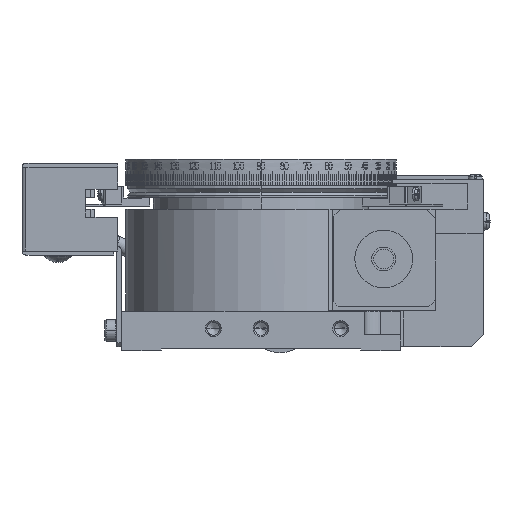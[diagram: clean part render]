
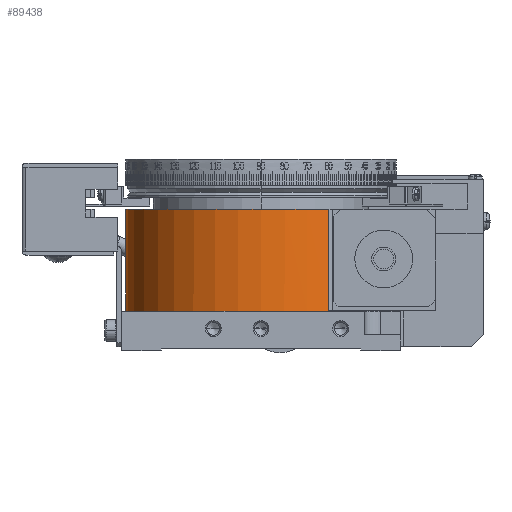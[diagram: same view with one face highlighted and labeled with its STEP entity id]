
A CAD part, left-side view. The second image highlights one B-rep face of the part: STEP entity #89438.
In plain terms, the highlighted cylindrical face has radius 33.9 mm (diameter 67.8 mm), a partial arc.
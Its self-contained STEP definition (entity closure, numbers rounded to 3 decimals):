
#2814 = VECTOR ( 'NONE', #96393, 1000. ) ;
#4744 = DIRECTION ( 'NONE',  ( 0., 0., 1. ) ) ;
#5719 = DIRECTION ( 'NONE',  ( 0., 1., 0. ) ) ;
#7009 = CARTESIAN_POINT ( 'NONE',  ( 46.624, 166.319, 35.5 ) ) ;
#8553 = EDGE_CURVE ( 'NONE', #71659, #140178, #52378, .T. ) ;
#10119 = CYLINDRICAL_SURFACE ( 'NONE', #121791, 33.9 ) ;
#11621 = VERTEX_POINT ( 'NONE', #144276 ) ;
#11728 = DIRECTION ( 'NONE',  ( 0., 0., 1. ) ) ;
#22144 = ORIENTED_EDGE ( 'NONE', *, *, #116921, .T. ) ;
#22941 = ORIENTED_EDGE ( 'NONE', *, *, #101006, .F. ) ;
#24110 = ORIENTED_EDGE ( 'NONE', *, *, #8553, .F. ) ;
#27649 = CIRCLE ( 'NONE', #105862, 33.9 ) ;
#28297 = LINE ( 'NONE', #49423, #108843 ) ;
#28654 = VERTEX_POINT ( 'NONE', #58440 ) ;
#29485 = DIRECTION ( 'NONE',  ( 0., 0., -1. ) ) ;
#29538 = DIRECTION ( 'NONE',  ( 0., -1., 0. ) ) ;
#31616 = EDGE_CURVE ( 'NONE', #57551, #11621, #74518, .T. ) ;
#36069 = VERTEX_POINT ( 'NONE', #97546 ) ;
#37732 = VECTOR ( 'NONE', #11728, 1000. ) ;
#40336 = DIRECTION ( 'NONE',  ( 0., 0., -1. ) ) ;
#41202 = DIRECTION ( 'NONE',  ( 0., 1., 0. ) ) ;
#41273 = DIRECTION ( 'NONE',  ( 0., 0., 1. ) ) ;
#41407 = CARTESIAN_POINT ( 'NONE',  ( 46.624, 132.419, 35.5 ) ) ;
#49069 = EDGE_CURVE ( 'NONE', #140178, #36069, #28297, .T. ) ;
#49423 = CARTESIAN_POINT ( 'NONE',  ( 17.294, 115.419, 35.501 ) ) ;
#52223 = EDGE_CURVE ( 'NONE', #56320, #36069, #27649, .T. ) ;
#52378 = CIRCLE ( 'NONE', #98381, 33.9 ) ;
#56320 = VERTEX_POINT ( 'NONE', #100944 ) ;
#57551 = VERTEX_POINT ( 'NONE', #136248 ) ;
#58440 = CARTESIAN_POINT ( 'NONE',  ( 46.624, 166.319, 9.9 ) ) ;
#67490 = LINE ( 'NONE', #145217, #37732 ) ;
#71659 = VERTEX_POINT ( 'NONE', #7009 ) ;
#74518 = LINE ( 'NONE', #85192, #2814 ) ;
#76099 = DIRECTION ( 'NONE',  ( 0., 1., 0. ) ) ;
#78004 = ORIENTED_EDGE ( 'NONE', *, *, #52223, .T. ) ;
#79430 = EDGE_LOOP ( 'NONE', ( #92837, #123801, #22144, #78004, #137537, #24110, #22941 ) ) ;
#81955 = FACE_OUTER_BOUND ( 'NONE', #79430, .T. ) ;
#84870 = CARTESIAN_POINT ( 'NONE',  ( 46.624, 132.419, 9.9 ) ) ;
#85192 = CARTESIAN_POINT ( 'NONE',  ( 46.624, 98.519, 4.164 ) ) ;
#89438 = ADVANCED_FACE ( 'NONE', ( #81955 ), #10119, .T. ) ;
#92837 = ORIENTED_EDGE ( 'NONE', *, *, #118346, .T. ) ;
#93749 = AXIS2_PLACEMENT_3D ( 'NONE', #84870, #41273, #29538 ) ;
#96083 = DIRECTION ( 'NONE',  ( 0., 1., 0. ) ) ;
#96393 = DIRECTION ( 'NONE',  ( 0., 0., 1. ) ) ;
#96974 = CARTESIAN_POINT ( 'NONE',  ( 46.624, 132.419, 10. ) ) ;
#97546 = CARTESIAN_POINT ( 'NONE',  ( 17.294, 115.419, 10. ) ) ;
#98381 = AXIS2_PLACEMENT_3D ( 'NONE', #41407, #124388, #76099 ) ;
#100944 = CARTESIAN_POINT ( 'NONE',  ( 28.624, 103.693, 10. ) ) ;
#101006 = EDGE_CURVE ( 'NONE', #28654, #71659, #67490, .T. ) ;
#105862 = AXIS2_PLACEMENT_3D ( 'NONE', #96974, #29485, #41202 ) ;
#105898 = CIRCLE ( 'NONE', #93749, 33.9 ) ;
#106424 = CARTESIAN_POINT ( 'NONE',  ( 46.624, 132.419, 10. ) ) ;
#108843 = VECTOR ( 'NONE', #116439, 1000. ) ;
#115741 = CARTESIAN_POINT ( 'NONE',  ( 46.624, 132.419, 4.164 ) ) ;
#116439 = DIRECTION ( 'NONE',  ( 0., 0., -1. ) ) ;
#116921 = EDGE_CURVE ( 'NONE', #11621, #56320, #119916, .T. ) ;
#118346 = EDGE_CURVE ( 'NONE', #28654, #57551, #105898, .T. ) ;
#119916 = CIRCLE ( 'NONE', #143134, 33.9 ) ;
#121791 = AXIS2_PLACEMENT_3D ( 'NONE', #115741, #4744, #5719 ) ;
#123801 = ORIENTED_EDGE ( 'NONE', *, *, #31616, .T. ) ;
#124388 = DIRECTION ( 'NONE',  ( 0., 0., 1. ) ) ;
#136248 = CARTESIAN_POINT ( 'NONE',  ( 46.624, 98.519, 9.9 ) ) ;
#137537 = ORIENTED_EDGE ( 'NONE', *, *, #49069, .F. ) ;
#140178 = VERTEX_POINT ( 'NONE', #143463 ) ;
#143134 = AXIS2_PLACEMENT_3D ( 'NONE', #106424, #40336, #96083 ) ;
#143463 = CARTESIAN_POINT ( 'NONE',  ( 17.294, 115.419, 35.5 ) ) ;
#144276 = CARTESIAN_POINT ( 'NONE',  ( 46.624, 98.519, 10. ) ) ;
#145217 = CARTESIAN_POINT ( 'NONE',  ( 46.624, 166.319, 4.164 ) ) ;
